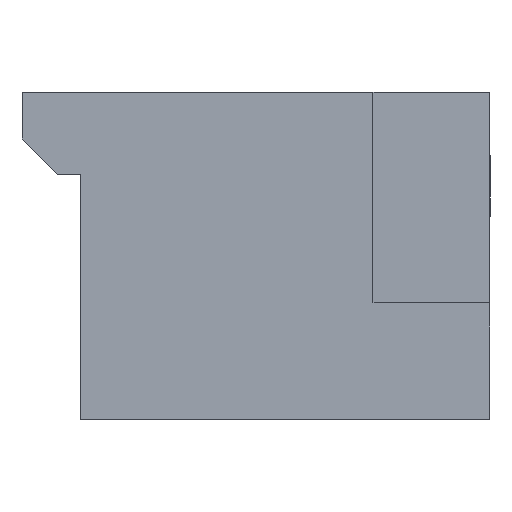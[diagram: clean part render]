
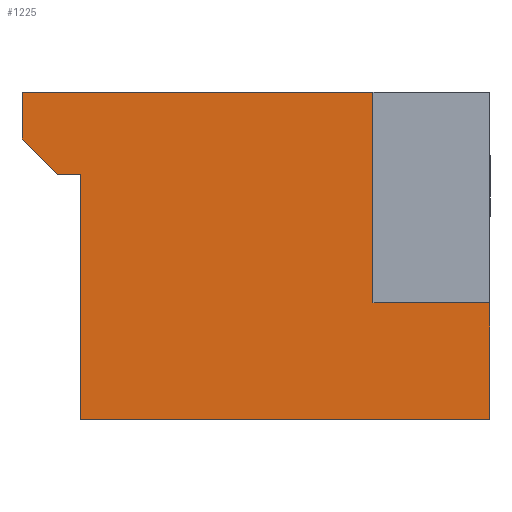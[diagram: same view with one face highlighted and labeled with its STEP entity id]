
A CAD part, front view. The second image highlights one B-rep face of the part: STEP entity #1225.
In plain terms, the highlighted planar face has unit normal (0, -1, 0).
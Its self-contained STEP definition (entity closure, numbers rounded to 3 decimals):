
#1207=AXIS2_PLACEMENT_3D('Plane Axis2P3D',#1204,#1205,#1206) ;
#127=CARTESIAN_POINT('Vertex',(-27.,-20.,11.)) ;
#143=CARTESIAN_POINT('Vertex',(-25.,-20.,11.)) ;
#146=CARTESIAN_POINT('Line Origine',(-26.,-20.,11.)) ;
#975=CARTESIAN_POINT('Vertex',(-30.,-20.,18.)) ;
#978=CARTESIAN_POINT('Line Origine',(-15.,-20.,18.)) ;
#982=CARTESIAN_POINT('Vertex',(0.,-20.,18.)) ;
#1023=CARTESIAN_POINT('Vertex',(-30.,-20.,14.)) ;
#1026=CARTESIAN_POINT('Line Origine',(-30.,-20.,16.)) ;
#1048=CARTESIAN_POINT('Line Origine',(-28.5,-20.,12.5)) ;
#1070=CARTESIAN_POINT('Vertex',(0.,-20.,0.)) ;
#1073=CARTESIAN_POINT('Line Origine',(5.,-20.,0.)) ;
#1077=CARTESIAN_POINT('Vertex',(10.,-20.,0.)) ;
#1092=CARTESIAN_POINT('Line Origine',(0.,-20.,9.)) ;
#1119=CARTESIAN_POINT('Vertex',(-25.,-20.,-10.)) ;
#1122=CARTESIAN_POINT('Line Origine',(-25.,-20.,0.5)) ;
#1173=CARTESIAN_POINT('Line Origine',(10.,-20.,-5.)) ;
#1177=CARTESIAN_POINT('Vertex',(10.,-20.,-10.)) ;
#1204=CARTESIAN_POINT('Axis2P3D Location',(10.,-20.,0.)) ;
#1209=CARTESIAN_POINT('Line Origine',(-7.5,-20.,-10.)) ;
#147=DIRECTION('Vector Direction',(1.,0.,0.)) ;
#979=DIRECTION('Vector Direction',(-1.,0.,0.)) ;
#1027=DIRECTION('Vector Direction',(0.,0.,1.)) ;
#1049=DIRECTION('Vector Direction',(0.707,0.,-0.707)) ;
#1074=DIRECTION('Vector Direction',(1.,0.,0.)) ;
#1093=DIRECTION('Vector Direction',(0.,0.,-1.)) ;
#1123=DIRECTION('Vector Direction',(0.,0.,1.)) ;
#1174=DIRECTION('Vector Direction',(0.,0.,1.)) ;
#1205=DIRECTION('Axis2P3D Direction',(0.,1.,-0.)) ;
#1206=DIRECTION('Axis2P3D XDirection',(-1.,0.,0.)) ;
#1210=DIRECTION('Vector Direction',(-1.,0.,0.)) ;
#148=VECTOR('Line Direction',#147,1.) ;
#980=VECTOR('Line Direction',#979,1.) ;
#1028=VECTOR('Line Direction',#1027,1.) ;
#1050=VECTOR('Line Direction',#1049,1.) ;
#1075=VECTOR('Line Direction',#1074,1.) ;
#1094=VECTOR('Line Direction',#1093,1.) ;
#1124=VECTOR('Line Direction',#1123,1.) ;
#1175=VECTOR('Line Direction',#1174,1.) ;
#1211=VECTOR('Line Direction',#1210,1.) ;
#1215=ORIENTED_EDGE('',*,*,#984,.F.) ;
#1216=ORIENTED_EDGE('',*,*,#1030,.F.) ;
#1217=ORIENTED_EDGE('',*,*,#1052,.F.) ;
#1218=ORIENTED_EDGE('',*,*,#150,.T.) ;
#1219=ORIENTED_EDGE('',*,*,#1126,.F.) ;
#1220=ORIENTED_EDGE('',*,*,#1213,.T.) ;
#1221=ORIENTED_EDGE('',*,*,#1179,.T.) ;
#1222=ORIENTED_EDGE('',*,*,#1079,.F.) ;
#1223=ORIENTED_EDGE('',*,*,#1096,.F.) ;
#1225=ADVANCED_FACE('\X2\96F64EF651E04F554F53\X0\',(#1224),#1208,.F.) ;
#150=EDGE_CURVE('',#128,#144,#149,.T.) ;
#984=EDGE_CURVE('',#976,#983,#981,.F.) ;
#1030=EDGE_CURVE('',#1024,#976,#1029,.T.) ;
#1052=EDGE_CURVE('',#128,#1024,#1051,.F.) ;
#1079=EDGE_CURVE('',#1071,#1078,#1076,.T.) ;
#1096=EDGE_CURVE('',#983,#1071,#1095,.T.) ;
#1126=EDGE_CURVE('',#1120,#144,#1125,.T.) ;
#1179=EDGE_CURVE('',#1178,#1078,#1176,.T.) ;
#1213=EDGE_CURVE('',#1120,#1178,#1212,.F.) ;
#1214=EDGE_LOOP('',(#1215,#1216,#1217,#1218,#1219,#1220,#1221,#1222,#1223)) ;
#1224=FACE_OUTER_BOUND('',#1214,.T.) ;
#149=LINE('Line',#146,#148) ;
#981=LINE('Line',#978,#980) ;
#1029=LINE('Line',#1026,#1028) ;
#1051=LINE('Line',#1048,#1050) ;
#1076=LINE('Line',#1073,#1075) ;
#1095=LINE('Line',#1092,#1094) ;
#1125=LINE('Line',#1122,#1124) ;
#1176=LINE('Line',#1173,#1175) ;
#1212=LINE('Line',#1209,#1211) ;
#1208=PLANE('Plane',#1207) ;
#128=VERTEX_POINT('',#127) ;
#144=VERTEX_POINT('',#143) ;
#976=VERTEX_POINT('',#975) ;
#983=VERTEX_POINT('',#982) ;
#1024=VERTEX_POINT('',#1023) ;
#1071=VERTEX_POINT('',#1070) ;
#1078=VERTEX_POINT('',#1077) ;
#1120=VERTEX_POINT('',#1119) ;
#1178=VERTEX_POINT('',#1177) ;
